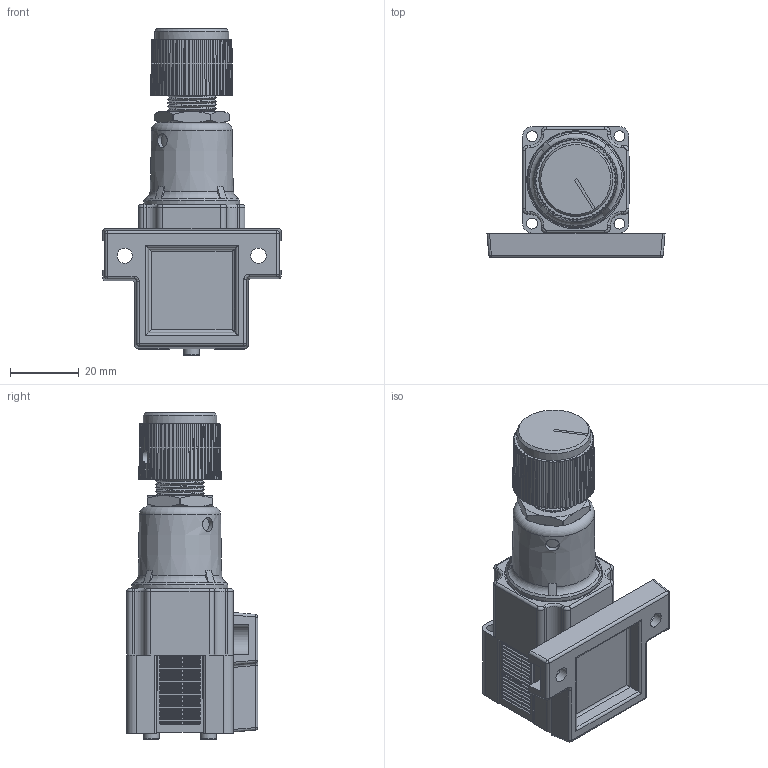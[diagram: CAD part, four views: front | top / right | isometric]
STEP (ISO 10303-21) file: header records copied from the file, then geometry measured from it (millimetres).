
FILE_DESCRIPTION(/* description */ (''),/* implementation_level */ '2;1');
FILE_NAME(/* name */ 'K:\Normteile INVENTOR\Air-Logic\Regulators\R6000\PR 6___ W Wall Mounting Dovetail Bracket.igs.ipt.stp',/* time_stamp */ '2020-05-27T10:56:41+02:00',/* author */ ('Paul'),/* organization */ (''),/* preprocessor_version */ 'ST-DEVELOPER v18',/* originating_system */ 'Autodesk Inventor 2020',/* authorisation */ '');
FILE_SCHEMA (('AUTOMOTIVE_DESIGN { 1 0 10303 214 3 1 1 }'));
Length unit declared in the file: inch
Products named in the file (1): PR 6___ W Wall Mounting Dovetail Bracket.igs
Bounding box: 51.8 x 38.2 x 95.02 mm (x, y, z)
Volume: 62389 mm3; surface area: 20455 mm2
Topology: 1 solids, 1 shells, 976 faces, 2509 edges, 1601 vertices
Faces by surface type: plane 467, cylinder 367, cone 82, torus 29, bspline 25, sphere 6
Full cylindrical faces by diameter (mm): 1.194 x1, 2.032 x1, 3.124 x2, 3.175 x8, 3.988 x1, 4.064 x1, 4.445 x2, 4.521 x2, 8.382 x2, 19.406 x1, 21.476 x1, 27.94 x1, 28.575 x1
Entity records: 35755 total; most frequent: CARTESIAN_POINT 10396, DIRECTION 5356, ORIENTED_EDGE 5018, EDGE_CURVE 2509, AXIS2_PLACEMENT_3D 2076, VERTEX_POINT 1601, LINE 1204, VECTOR 1204
